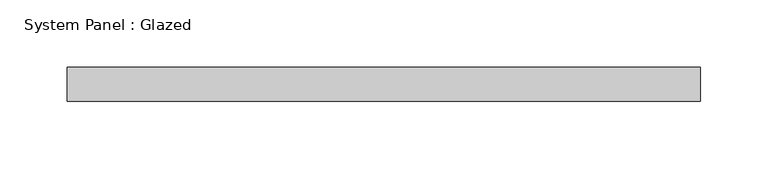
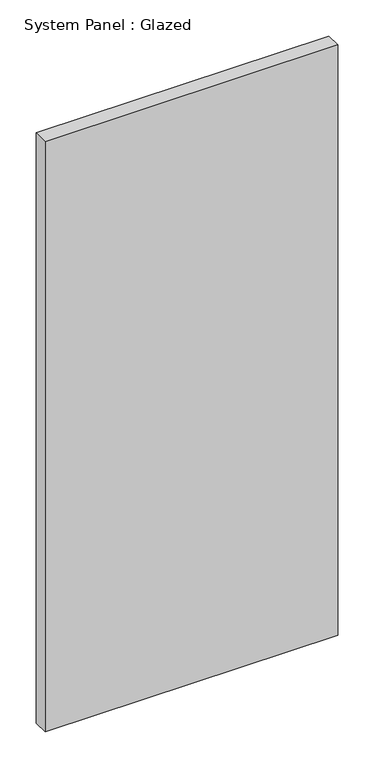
"""IFC4 building model written with IfcOpenShell, lengths in millimetres: plate geometry, System Panel : Glazed."""

from ifc_helpers import new_model, si_unit, origin, origin_with_axes, place, context, project, spatial, polyline, outline, extrude, source, transform, mapped, element, save


def system_panel_glazed_8bb1380a(model_context):
    return source(origin(), model_context, "Body", "SweptSolid", [
        extrude(outline(polyline([(234.4900273, 24.5), (-234.4900273, 24.5), (-234.4900273, 49.5), (234.4900273, 49.5), (234.4900273, 24.5)])), origin_with_axes(), (0.0, 0.0, 1.0), 1000.0),
    ])


if __name__ == "__main__":
    model = new_model("IFC4")
    model_context = context("Model", 3, world=origin())
    ifc_project = project(units=[si_unit("LENGTHUNIT", "METRE", prefix="MILLI")], contexts=[model_context])
    site = spatial("IfcSite", under=ifc_project)
    building = spatial("IfcBuilding", under=site)
    placement = place(None, origin())
    system_panel_glazed_shape = system_panel_glazed_8bb1380a(model_context)
    element("IfcPlate", 1, ObjectType="System Panel : Glazed", at=placement, inside=building, context=model_context, shape_type="MappedRepresentation", body=[
        mapped(system_panel_glazed_shape, transform((0.0, 0.0, 0.0), x_axis=(1.0, 0.0, 0.0), y_axis=(0.0, 1.0, 0.0), z_axis=(0.0, 0.0, 1.0))),
    ])
    save(model, "model.ifc")
